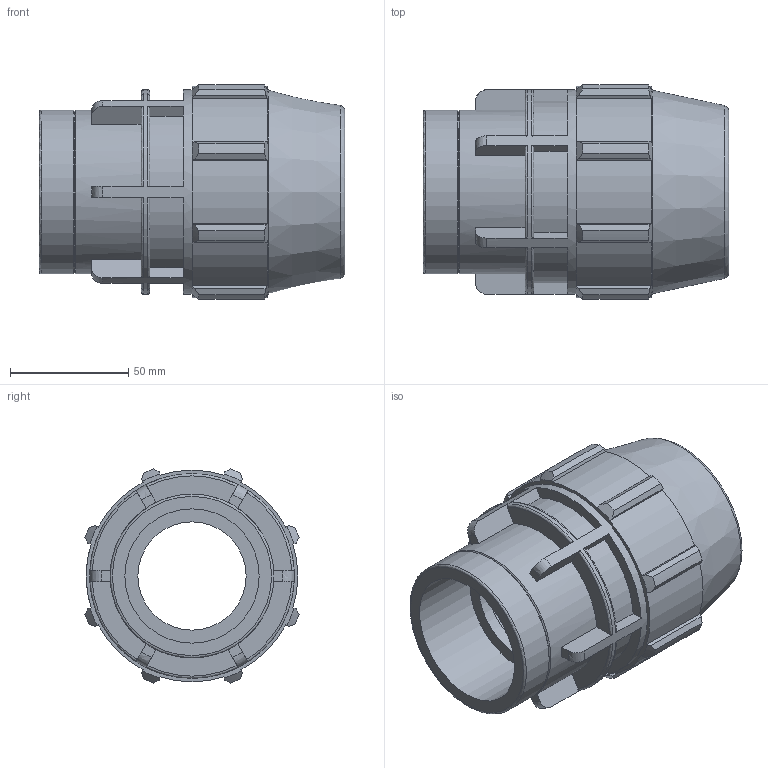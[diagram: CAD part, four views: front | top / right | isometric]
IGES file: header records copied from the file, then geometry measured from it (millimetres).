
Global section: file name: 0703M0T15020.ipt; native system: Autodesk Inventor 2019; preprocessor: unknown; author: KIM; date: 20210826.124527; units: inch
Bounding box: 129.03 x 90.34 x 90.34 mm (x, y, z)
Volume: 382286.1 mm3; surface area: 66628.6 mm2
Topology: 1 solids, 1 shells, 148 faces, 413 edges, 277 vertices
Faces by surface type: plane 86, revolution 25, cylinder 25, cone 12
Full cylindrical faces by diameter (mm): 69.129 x2, 86.411 x1
